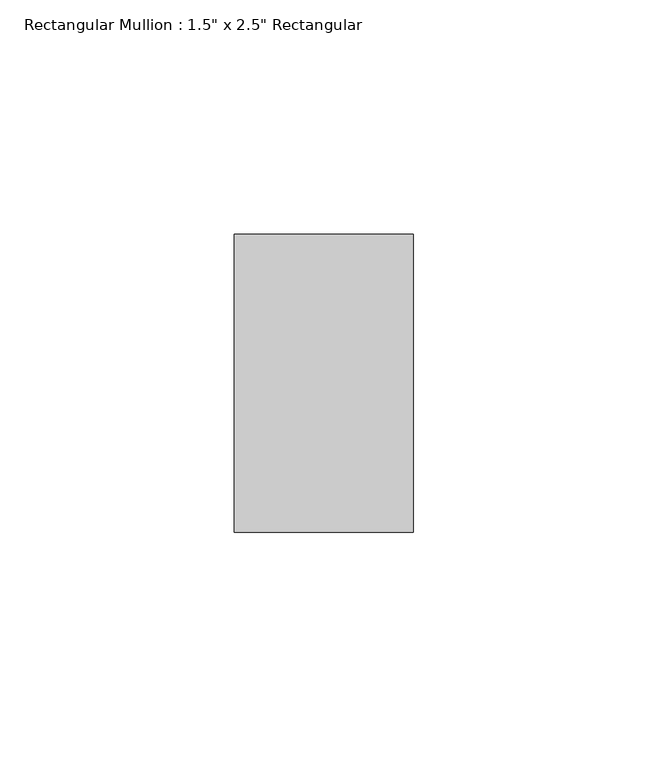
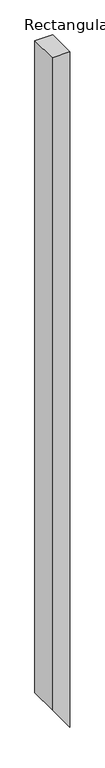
"""IFC4 building model written with IfcOpenShell, lengths in millimetres: member geometry."""

import ifcopenshell
import ifcopenshell.guid

model = None  # the IFC model being written
_history = None  # IfcOwnerHistory: only IFC2X3 demands one
_inside = {}  # id of a spatial element -> (the spatial element, [elements in it])
_under = {}  # id of a project, library or spatial element -> (it, [spatial elements below it])
_declared = {}  # id of a project -> (the project, [libraries it declares])
_typed = {}  # id of a type object -> (the type object, [elements of that type])
_made_of = {}  # id of a material, layer set ... -> (it, [elements and type objects made of it])


def new_model(schema):
    """Start an empty IFC model of exactly this schema.

    Asked for "IFC4X3", IfcOpenShell would pick the latest addendum, in which some entities
    have other attributes; the version numbers below select the first issue.
    IFC2X3 requires an IfcOwnerHistory on every rooted entity: one is made here for all.
    """
    global model, _history
    if schema == "IFC4X3":
        model = ifcopenshell.file(schema_version=(4, 3, 0, 0))
    else:
        model = ifcopenshell.file(schema=schema)
    _inside.clear()
    _under.clear()
    _declared.clear()
    _typed.clear()
    _made_of.clear()
    _history = None
    if model.schema == "IFC2X3":
        org = make("IfcOrganization", Name="unknown")
        user = make(
            "IfcPersonAndOrganization",
            ThePerson=make("IfcPerson", FamilyName="unknown"),
            TheOrganization=org,
        )
        app = make(
            "IfcApplication",
            ApplicationDeveloper=org,
            Version="unknown",
            ApplicationFullName="unknown",
            ApplicationIdentifier="unknown",
        )
        _history = make(
            "IfcOwnerHistory",
            OwningUser=user,
            OwningApplication=app,
            ChangeAction="ADDED",
            CreationDate=0,
        )
    return model


def make(cls, **values):
    """One entity of the class cls with the attributes given. An attribute that is None is left unset."""
    return model.create_entity(
        cls, **{name: value for name, value in values.items() if value is not None}
    )


def rooted(cls, **values):
    """An entity with a GlobalId (a new one), such as an element, a storey or a relation."""
    return make(cls, GlobalId=ifcopenshell.guid.new(), OwnerHistory=_history, **values)


def si_unit(unit_type, name, prefix=None):
    """IfcSIUnit, for example si_unit("LENGTHUNIT", "METRE", prefix="MILLI")."""
    return make("IfcSIUnit", UnitType=unit_type, Prefix=prefix, Name=name)


def assignment(units):
    """IfcUnitAssignment: the units of a project."""
    return None if units is None else make("IfcUnitAssignment", Units=units)


def point(xyz):
    """IfcCartesianPoint."""
    return None if xyz is None else make("IfcCartesianPoint", Coordinates=xyz)


def direction(xyz):
    """IfcDirection."""
    return None if xyz is None else make("IfcDirection", DirectionRatios=xyz)


def frame(location, z_axis=None, x_axis=None):
    """IfcAxis2Placement3D, a coordinate frame: its origin and axes. An axis left out is left unset."""
    return make(
        "IfcAxis2Placement3D",
        Location=point(location),
        Axis=direction(z_axis),
        RefDirection=direction(x_axis),
    )


def origin():
    """The frame at (0, 0, 0) with its axes left unset."""
    return frame((0.0, 0.0, 0.0))


def place(relative_to, where):
    """IfcLocalPlacement: puts the frame where relative to a parent placement (None: the world)."""
    return make(
        "IfcLocalPlacement", PlacementRelTo=relative_to, RelativePlacement=where
    )


def context(
    kind, dimensions, precision=None, world=None, true_north=None, identifier=None
):
    """IfcGeometricRepresentationContext, for example the 3D "Model" context."""
    return make(
        "IfcGeometricRepresentationContext",
        ContextIdentifier=identifier,
        ContextType=kind,
        CoordinateSpaceDimension=dimensions,
        Precision=precision,
        WorldCoordinateSystem=world,
        TrueNorth=true_north,
    )


def project(units=None, contexts=None):
    """IfcProject with its units and contexts."""
    return rooted(
        "IfcProject",
        Name="project",
        RepresentationContexts=contexts,
        UnitsInContext=assignment(units),
    )


def spatial(cls, under=None, at=None, **own):
    """A site, building, storey or space (cls), placed at a placement, below another one or the project."""
    s = rooted(cls, ObjectPlacement=at, **own)
    if under is not None:
        _under.setdefault(under.id(), (under, []))[1].append(s)
    return s


def polyline(points):
    """IfcPolyline through the points."""
    return make("IfcPolyline", Points=[point(p) for p in points])


def outline(outer, holes=None, kind="AREA"):
    """IfcArbitraryClosedProfileDef: a profile drawn as a closed curve; with holes, ...WithVoids."""
    if holes is None:
        return make("IfcArbitraryClosedProfileDef", ProfileType=kind, OuterCurve=outer)
    return make(
        "IfcArbitraryProfileDefWithVoids",
        ProfileType=kind,
        OuterCurve=outer,
        InnerCurves=holes,
    )


def extrude(swept, where, along, depth):
    """IfcExtrudedAreaSolid: the profile swept, set in the frame where, extruded along a direction by depth."""
    return make(
        "IfcExtrudedAreaSolid",
        SweptArea=swept,
        Position=where,
        ExtrudedDirection=direction(along),
        Depth=depth,
    )


def shape(context_of_items, identifier, shape_type, items):
    """IfcShapeRepresentation: the items that make up one representation, for example the "Body"."""
    return make(
        "IfcShapeRepresentation",
        ContextOfItems=context_of_items,
        RepresentationIdentifier=identifier,
        RepresentationType=shape_type,
        Items=items,
    )


def source(mapping_origin, context_of_items, identifier, shape_type, items):
    """IfcRepresentationMap: a shape defined once, which mapped items show again and again."""
    return make(
        "IfcRepresentationMap",
        MappingOrigin=mapping_origin,
        MappedRepresentation=shape(context_of_items, identifier, shape_type, items),
    )


def transform(
    local_origin,
    x_axis=None,
    y_axis=None,
    z_axis=None,
    scale=None,
    scale2=None,
    scale3=None,
    uniform=True,
):
    """IfcCartesianTransformationOperator3D, or its non-uniform kind. x_axis, y_axis, z_axis: its Axis1, 2, 3."""
    if uniform:
        return make(
            "IfcCartesianTransformationOperator3D",
            Axis1=direction(x_axis),
            Axis2=direction(y_axis),
            LocalOrigin=point(local_origin),
            Scale=scale,
            Axis3=direction(z_axis),
        )
    return make(
        "IfcCartesianTransformationOperator3DnonUniform",
        Axis1=direction(x_axis),
        Axis2=direction(y_axis),
        LocalOrigin=point(local_origin),
        Scale=scale,
        Axis3=direction(z_axis),
        Scale2=scale2,
        Scale3=scale3,
    )


def mapped(mapping_source, mapping_target):
    """IfcMappedItem: shows the shape of a source again, moved by a transform."""
    return make(
        "IfcMappedItem", MappingSource=mapping_source, MappingTarget=mapping_target
    )


def made_of(thing, what):
    """Note that an element or type object is made of a material, layer set ...; save() writes the relation."""
    if what is not None:
        _made_of.setdefault(what.id(), (what, []))[1].append(thing)
    return thing


def element(
    cls,
    number,
    at=None,
    inside=None,
    cuts=None,
    type_object=None,
    material=None,
    context=None,
    identifier="Body",
    shape_type=None,
    held_by="IfcProductDefinitionShape",
    body=None,
    shapes=None,
    **own,
):
    """One element of the class cls, such as IfcWall. Its Tag is "e" and its number.

    at: its placement. inside: the storey or other place that contains it. cuts: it is an
    opening in that element (IfcRelVoidsElement). A single representation is given by context,
    identifier, shape_type and body (its items); several are given by shapes. held_by: the class
    of the entity that holds the representations. save() writes the other relations.
    """
    e = rooted(cls, Tag="e%d" % number, ObjectPlacement=at, **own)
    if body is not None:
        shapes = [shape(context, identifier, shape_type, body)]
    if shapes is not None:
        e.Representation = make(held_by, Representations=shapes)
    if inside is not None:
        _inside.setdefault(inside.id(), (inside, []))[1].append(e)
    if cuts is not None:
        rooted(
            "IfcRelVoidsElement", RelatingBuildingElement=cuts, RelatedOpeningElement=e
        )
    if type_object is not None:
        _typed.setdefault(type_object.id(), (type_object, []))[1].append(e)
    return made_of(e, material)


def aggregate(whole, parts):
    """IfcRelAggregates: a whole, such as a stair, and the parts it consists of."""
    return rooted("IfcRelAggregates", RelatingObject=whole, RelatedObjects=parts)


def save(model, path):
    """Write the relations noted so far, then the file.

    IfcRelAggregates (storeys below a building ...), IfcRelContainedInSpatialStructure (elements
    in a storey), IfcRelDefinesByType, IfcRelAssociatesMaterial and IfcRelDeclares: one each for
    every whole, place, type object, material and project.
    """
    for whole, parts in _under.values():
        aggregate(whole, parts)
    for where, things in _inside.values():
        rooted(
            "IfcRelContainedInSpatialStructure",
            RelatedElements=things,
            RelatingStructure=where,
        )
    for kind, things in _typed.values():
        rooted("IfcRelDefinesByType", RelatedObjects=things, RelatingType=kind)
    for what, things in _made_of.values():
        rooted("IfcRelAssociatesMaterial", RelatedObjects=things, RelatingMaterial=what)
    for by, libraries in _declared.values():
        rooted("IfcRelDeclares", RelatingContext=by, RelatedDefinitions=libraries)
    model.write(path)


def member_4ed907bf(model_context):
    return source(origin(), model_context, "Body", "SweptSolid", [
        extrude(outline(polyline([(0.0, 0.0), (0.0, -38.1), (-1471.1390737, -38.1), (-1524.0, 0.0), (0.0, 0.0)])), frame((0.0, -31.75, 0.0), z_axis=(0.0, 1.0, 0.0), x_axis=(0.0, 0.0, 1.0)), (0.0, 0.0, 1.0), 63.5),
    ])


if __name__ == "__main__":
    model = new_model("IFC4")
    model_context = context("Model", 3, world=origin())
    ifc_project = project(units=[si_unit("LENGTHUNIT", "METRE", prefix="MILLI")], contexts=[model_context])
    site = spatial("IfcSite", under=ifc_project)
    building = spatial("IfcBuilding", under=site)
    placement = place(None, origin())
    member_shape = member_4ed907bf(model_context)
    element("IfcMember", 1, ObjectType="Rectangular Mullion : 1.5\" x 2.5\" Rectangular", at=placement, inside=building, context=model_context, shape_type="MappedRepresentation", body=[
        mapped(member_shape, transform((0.0, 0.0, 0.0), x_axis=(1.0, 0.0, 0.0), y_axis=(0.0, 1.0, 0.0), z_axis=(0.0, 0.0, 1.0))),
    ])
    save(model, "model.ifc")
